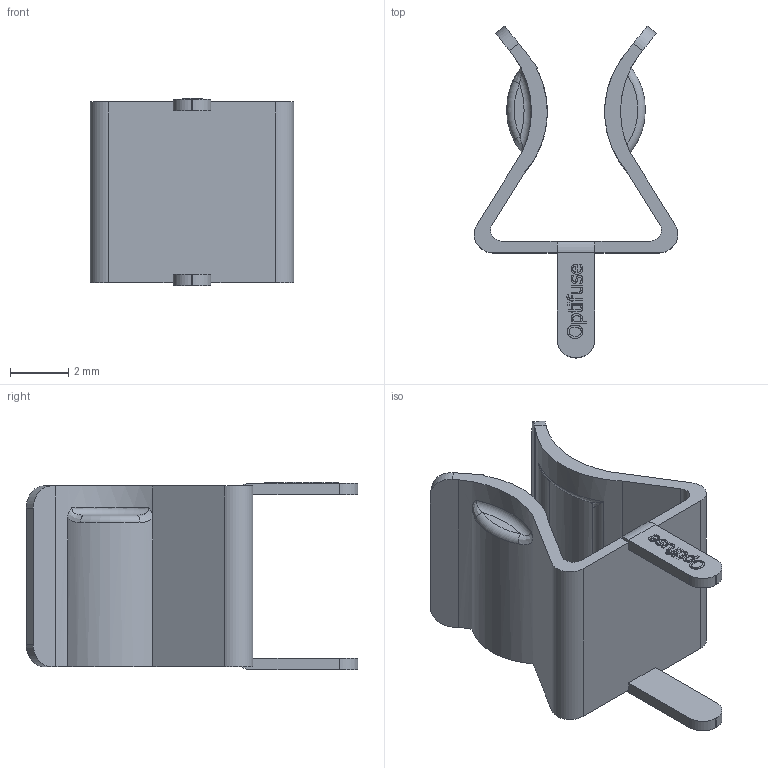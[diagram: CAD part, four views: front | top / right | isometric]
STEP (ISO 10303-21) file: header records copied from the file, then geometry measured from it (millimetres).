
FILE_DESCRIPTION(/* description */ (''),/* implementation_level */ '2;1');
FILE_NAME(/* name */ 'C:\Users\Hani\Desktop\work\CSC-03\CSC-03.stp',/* time_stamp */ '2021-10-29T09:53:29-07:00',/* author */ ('Hani'),/* organization */ (''),/* preprocessor_version */ 'ST-DEVELOPER v17',/* originating_system */ 'Autodesk Inventor 2019',/* authorisation */ '');
FILE_SCHEMA (('AUTOMOTIVE_DESIGN { 1 0 10303 214 3 1 1 }'));
Length unit declared in the file: inch
Products named in the file (1): CSC-03
Bounding box: 6.98 x 11.37 x 6.43 mm (x, y, z)
Volume: 70.7 mm3; surface area: 336.4 mm2
Topology: 1 solids, 1 shells, 213 faces, 578 edges, 376 vertices
Faces by surface type: plane 99, bspline 77, cylinder 28, torus 9
Entity records: 7568 total; most frequent: CARTESIAN_POINT 2634, ORIENTED_EDGE 1150, DIRECTION 768, EDGE_CURVE 575, VERTEX_POINT 376, LINE 338, VECTOR 338, EDGE_LOOP 225
